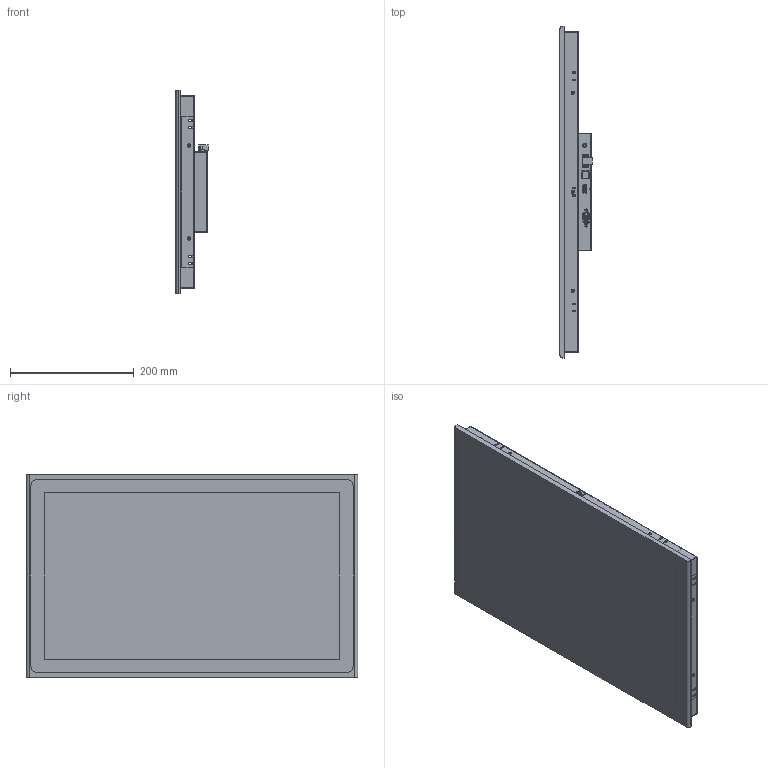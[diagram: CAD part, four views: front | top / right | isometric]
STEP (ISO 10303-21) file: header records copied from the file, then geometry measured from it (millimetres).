
FILE_DESCRIPTION((''),'2;1');
FILE_NAME('FPM-2105D-20241226','2025-08-01T19:33:58',('anthony'),(''),'CREO PARAMETRIC BY PTC INC, 2024063','CREO PARAMETRIC BY PTC INC, 2024063','');
FILE_SCHEMA(('CONFIG_CONTROL_DESIGN','SHAPE_APPEARANCE_LAYERS_GROUPS'));
Products named in the file (1): FPM-2105D-20241226
Bounding box: 52.09 x 536.15 x 329.4 mm (x, y, z)
Volume: 396996.3 mm3; surface area: 894003.7 mm2
Topology: 9 solids, 22 shells, 2592 faces, 7241 edges, 4702 vertices
Faces by surface type: plane 1812, cylinder 668, torus 44, cone 38, bspline 26, sphere 4
Entity records: 90795 total; most frequent: CARTESIAN_POINT 17816, ORIENTED_EDGE 14199, DIRECTION 13166, EDGE_CURVE 7238, VECTOR 5560, LINE 5560, VERTEX_POINT 4702, AXIS2_PLACEMENT_3D 3803
